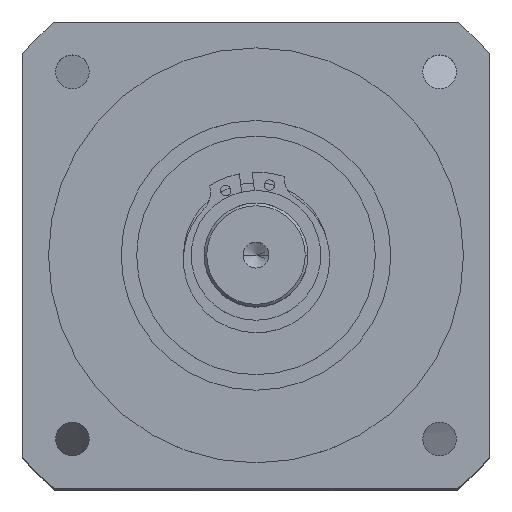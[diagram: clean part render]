
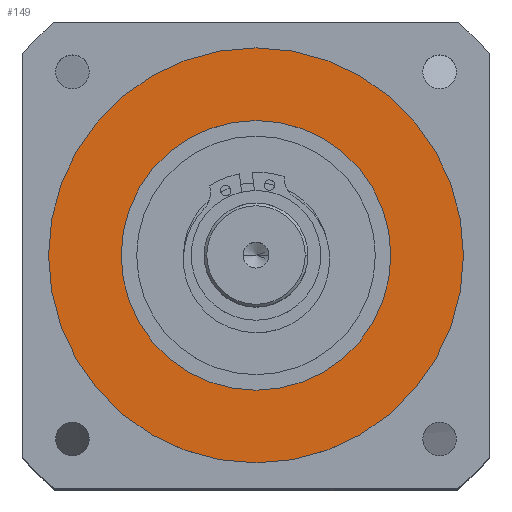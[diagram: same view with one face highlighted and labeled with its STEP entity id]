
A CAD part, top view. The second image highlights one B-rep face of the part: STEP entity #149.
In plain terms, the highlighted planar face has unit normal (0, 0, 1).
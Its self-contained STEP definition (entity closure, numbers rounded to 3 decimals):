
#149 = ADVANCED_FACE ( 'NONE', ( #15265, #13909 ), #7444, .T. ) ;
#351 = EDGE_CURVE ( 'NONE', #4023, #1606, #6470, .T. ) ;
#1261 = EDGE_CURVE ( 'NONE', #1606, #4023, #16178, .T. ) ;
#1606 = VERTEX_POINT ( 'NONE', #10188 ) ;
#1885 = ORIENTED_EDGE ( 'NONE', *, *, #351, .T. ) ;
#2101 = DIRECTION ( 'NONE',  ( 0., 0., 1. ) ) ;
#2798 = AXIS2_PLACEMENT_3D ( 'NONE', #5924, #4496, #17385 ) ;
#3421 = AXIS2_PLACEMENT_3D ( 'NONE', #5301, #7996, #12504 ) ;
#3469 = AXIS2_PLACEMENT_3D ( 'NONE', #14277, #11793, #11429 ) ;
#3698 = CIRCLE ( 'NONE', #3469, 26. ) ;
#3797 = CARTESIAN_POINT ( 'NONE',  ( 0., 0., 14.5 ) ) ;
#4023 = VERTEX_POINT ( 'NONE', #15791 ) ;
#4496 = DIRECTION ( 'NONE',  ( 0., 0., 1. ) ) ;
#5301 = CARTESIAN_POINT ( 'NONE',  ( 0., 0., 14.5 ) ) ;
#5469 = DIRECTION ( 'NONE',  ( 1., 0., 0. ) ) ;
#5924 = CARTESIAN_POINT ( 'NONE',  ( 0., 0., 14.5 ) ) ;
#6470 = CIRCLE ( 'NONE', #10121, 40. ) ;
#6766 = ORIENTED_EDGE ( 'NONE', *, *, #1261, .T. ) ;
#7328 = ORIENTED_EDGE ( 'NONE', *, *, #11778, .F. ) ;
#7444 = PLANE ( 'NONE',  #2798 ) ;
#7956 = CARTESIAN_POINT ( 'NONE',  ( 26., 0., 14.5 ) ) ;
#7996 = DIRECTION ( 'NONE',  ( 0., 0., 1. ) ) ;
#8096 = ORIENTED_EDGE ( 'NONE', *, *, #17557, .F. ) ;
#9798 = DIRECTION ( 'NONE',  ( 0., 0., 1. ) ) ;
#10121 = AXIS2_PLACEMENT_3D ( 'NONE', #3797, #2101, #12170 ) ;
#10188 = CARTESIAN_POINT ( 'NONE',  ( -40., 0., 14.5 ) ) ;
#10654 = VERTEX_POINT ( 'NONE', #7956 ) ;
#11429 = DIRECTION ( 'NONE',  ( 1., 0., 0. ) ) ;
#11778 = EDGE_CURVE ( 'NONE', #18303, #10654, #17124, .T. ) ;
#11793 = DIRECTION ( 'NONE',  ( 0., 0., 1. ) ) ;
#12138 = CARTESIAN_POINT ( 'NONE',  ( -26., 0., 14.5 ) ) ;
#12170 = DIRECTION ( 'NONE',  ( 1., 0., 0. ) ) ;
#12504 = DIRECTION ( 'NONE',  ( 1., 0., 0. ) ) ;
#12623 = AXIS2_PLACEMENT_3D ( 'NONE', #17122, #9798, #5469 ) ;
#13909 = FACE_OUTER_BOUND ( 'NONE', #17552, .T. ) ;
#14277 = CARTESIAN_POINT ( 'NONE',  ( 0., 0., 14.5 ) ) ;
#15265 = FACE_BOUND ( 'NONE', #17328, .T. ) ;
#15791 = CARTESIAN_POINT ( 'NONE',  ( 40., 0., 14.5 ) ) ;
#16178 = CIRCLE ( 'NONE', #3421, 40. ) ;
#17122 = CARTESIAN_POINT ( 'NONE',  ( 0., 0., 14.5 ) ) ;
#17124 = CIRCLE ( 'NONE', #12623, 26. ) ;
#17328 = EDGE_LOOP ( 'NONE', ( #8096, #7328 ) ) ;
#17385 = DIRECTION ( 'NONE',  ( 1., 0., 0. ) ) ;
#17552 = EDGE_LOOP ( 'NONE', ( #6766, #1885 ) ) ;
#17557 = EDGE_CURVE ( 'NONE', #10654, #18303, #3698, .T. ) ;
#18303 = VERTEX_POINT ( 'NONE', #12138 ) ;
